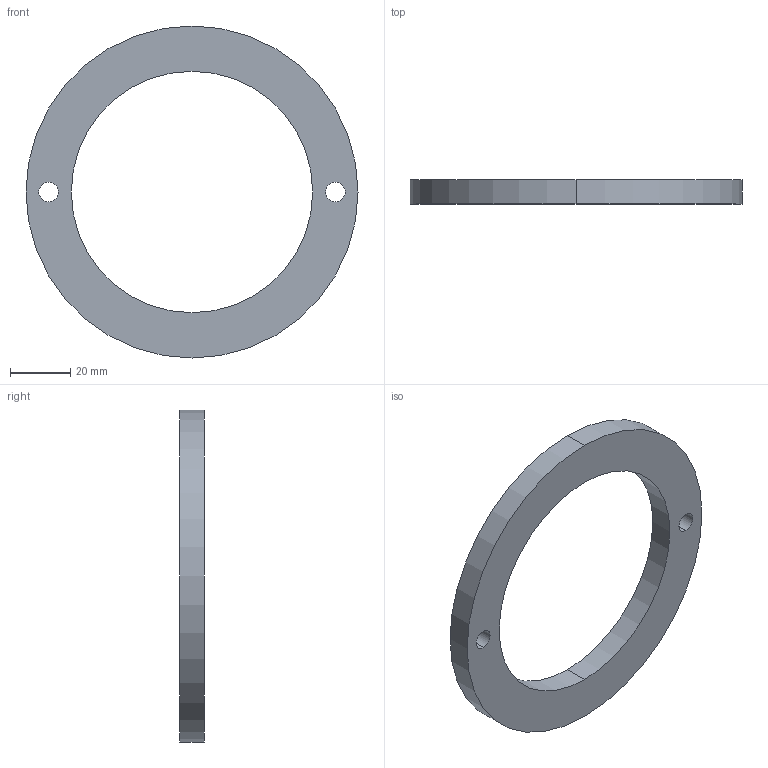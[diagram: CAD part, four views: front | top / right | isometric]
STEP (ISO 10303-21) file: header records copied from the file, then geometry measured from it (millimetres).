
FILE_DESCRIPTION (( 'STEP AP214' ), '1' );
FILE_NAME ('BRDCO-110.STEP', '2020-02-05T09:08:53', ( 'August' ), ( '' ), 'SwSTEP 2.0', 'SolidWorks 2018', '' );
FILE_SCHEMA (( 'AUTOMOTIVE_DESIGN' ));
Length unit declared in the file: millimetre
Products named in the file (1): BRDCO-110
Bounding box: 110 x 8 x 110 mm (x, y, z)
Volume: 35283.2 mm3; surface area: 13922.8 mm2
Topology: 1 solids, 1 shells, 10 faces, 24 edges, 16 vertices
Faces by surface type: cylinder 8, plane 2
Entity records: 350 total; most frequent: DIRECTION 62, CARTESIAN_POINT 51, ORIENTED_EDGE 48, AXIS2_PLACEMENT_3D 27, EDGE_CURVE 24, EDGE_LOOP 16, VERTEX_POINT 16, CIRCLE 16
